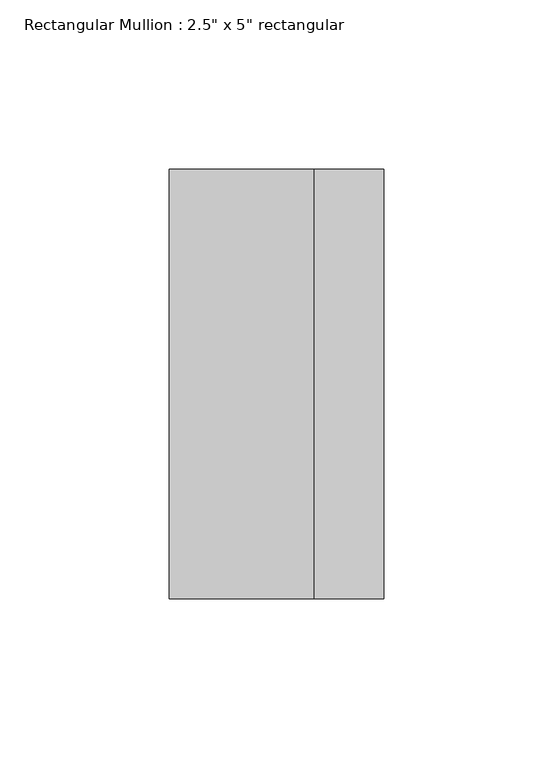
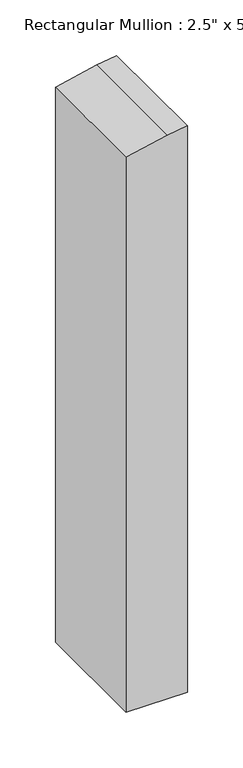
"""IFC4 building model written with IfcOpenShell, lengths in millimetres: member geometry."""

from ifc_helpers import new_model, si_unit, frame, origin, place, context, project, spatial, circle_curve, source, transform, mapped, element, save
from ifc_brep_helpers import plane_surface, cylinder_surface, advanced_brep


def member_a47185ce(model_context):
    return source(origin(), model_context, "Body", "AdvancedBrep", [
        advanced_brep(
        [(31.75, 63.5, -680.1745497), (31.75, -63.5, -680.1745497), (-31.75, -63.5, -680.1745497), (-31.75, 63.5, -680.1745497), (-31.75, 63.5, -71.7713023), (11.2038373, 63.5, -62.541954), (31.75, 63.5, -59.5969474), (-31.75, -63.5, -71.7713023), (31.75, -63.5, -59.5969474), (11.203834, -63.5, -62.5419545)],
        [
            (0, 1),
            (1, 2),
            (2, 3),
            (3, 0),
            (4, 5),
            (5, 6, circle_curve(frame((3233.0658552, 63.5, -22467.0732141), z_axis=(0.0, 1.0, 0.0), x_axis=(-0.14243519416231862, 0.0, 0.989804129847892)), 22635.0042157)),
            (6, 0),
            (3, 4),
            (7, 4),
            (2, 7),
            (8, 9, circle_curve(frame((3233.0658552, -63.5, -22467.0732141), z_axis=(0.0, -1.0, 0.0), x_axis=(-0.14243519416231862, 0.0, 0.989804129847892)), 22635.0042157)),
            (9, 7),
            (1, 8),
            (6, 8),
            (5, 9),
        ],
        [
            plane_surface(frame((0.0, -70.9951583, -680.1745497), z_axis=(0.0, 0.0, -1.0), x_axis=(-1.0, 0.0, 0.0))),
            plane_surface(frame((31.75, 63.5, 0.0), z_axis=(0.0, 1.0, 0.0), x_axis=(0.0, 0.0, -1.0))),
            plane_surface(frame((-31.75, 63.5, 0.0), z_axis=(-1.0, 0.0, 0.0), x_axis=(0.0, 0.0, -1.0))),
            plane_surface(frame((-31.75, -63.5, 0.0), z_axis=(0.0, -1.0, 0.0), x_axis=(0.0, 0.0, -1.0))),
            plane_surface(frame((31.75, -63.5, 0.0), z_axis=(1.0, 0.0, 0.0), x_axis=(0.0, 0.0, -1.0))),
            cylinder_surface(frame((3233.0658552, 0.0, -22467.0732141), z_axis=(0.0, 1.0000000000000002, 0.0), x_axis=(-0.14243519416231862, 0.0, 0.989804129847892)), 22635.0042157),
            plane_surface(frame((-3034.6604205, 63.5, -716.9966824), z_axis=(-0.2100721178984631, 0.0, 0.9776858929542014), x_axis=(0.9776858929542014, 0.0, 0.2100721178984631))),
        ],
        [
            (0, [[1, 2, 3, 4]]),
            (1, [[5, 6, 7, -4, 8]]),
            (2, [[9, -8, -3, 10]]),
            (3, [[11, 12, -10, -2, 13]]),
            (4, [[14, -13, -1, -7]]),
            (5, [[-6, 15, -11, -14]]),
            (6, [[-5, -9, -12, -15]]),
        ],
    ),
    ])


if __name__ == "__main__":
    model = new_model("IFC4")
    model_context = context("Model", 3, world=origin())
    ifc_project = project(units=[si_unit("LENGTHUNIT", "METRE", prefix="MILLI")], contexts=[model_context])
    site = spatial("IfcSite", under=ifc_project)
    building = spatial("IfcBuilding", under=site)
    placement = place(None, origin())
    member_shape = member_a47185ce(model_context)
    element("IfcMember", 1, ObjectType="Rectangular Mullion : 2.5\" x 5\" rectangular", at=placement, inside=building, context=model_context, shape_type="MappedRepresentation", body=[
        mapped(member_shape, transform((0.0, 0.0, 0.0), x_axis=(1.0, 0.0, 0.0), y_axis=(0.0, 1.0, 0.0), z_axis=(0.0, 0.0, 1.0))),
    ])
    save(model, "model.ifc")
